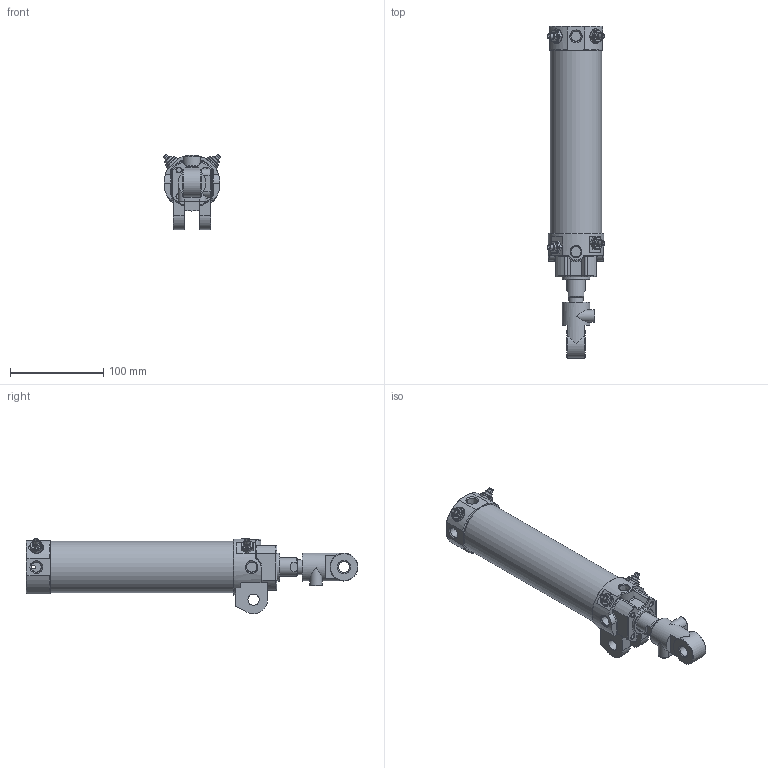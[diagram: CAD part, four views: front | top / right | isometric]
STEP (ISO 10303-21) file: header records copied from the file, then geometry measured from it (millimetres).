
FILE_DESCRIPTION((''),'2;1');
FILE_NAME('I:\3D電子目錄\氣缸\DCK\DCK\DCK-1B-50x150-I.stp','2008-02-26T14:24:38',('Administrator'),(''),'Autodesk Inventor 11','Autodesk Inventor 11','');
FILE_SCHEMA(('AUTOMOTIVE_DESIGN { 1 0 10303 214 1 1 1 1 }'));
Length unit declared in the file: millimetre
Products named in the file (6): DCK-1B-50-I; DCK-1A-50-I; 緩衝針; 緩衝針-1; 緩衝針-201; 緩衝針-3
Assembly tree (8 placements, depth 3):
  DCK-1B-50-I
    DCK-1A-50-I
    緩衝針  x4
      緩衝針-1
      緩衝針-201
      緩衝針-3
Bounding box: 61.76 x 356 x 80.87 mm (x, y, z)
Volume: 291502.4 mm3; surface area: 135059.7 mm2
Topology: 16 solids, 16 shells, 617 faces, 1375 edges, 859 vertices
Faces by surface type: plane 227, cylinder 180, cone 141, torus 35, bspline 34
Full cylindrical faces by diameter (mm): 2 x2, 3 x4, 3.8 x2, 4 x6, 4.6 x4, 5 x8, 5.1 x4, 5.2 x12, 5.5 x4, 7.25 x1, 7.9 x4, 8 x2, 10.3 x1, 11.3 x1, 12 x5, 12.8 x4, 16 x3, 20 x1, 21 x1, 22 x2, 23 x1, 24.7 x1, 26 x1, 27 x1, 28 x1, 29 x1, 30 x3, 33 x1, 49.5 x1, 52 x2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
Entity records: 12811 total; most frequent: CARTESIAN_POINT 5086, DIRECTION 1580, ORIENTED_EDGE 1388, EDGE_CURVE 694, AXIS2_PLACEMENT_3D 690, EDGE_LOOP 570, VERTEX_POINT 506, FACE_OUTER_BOUND 368
